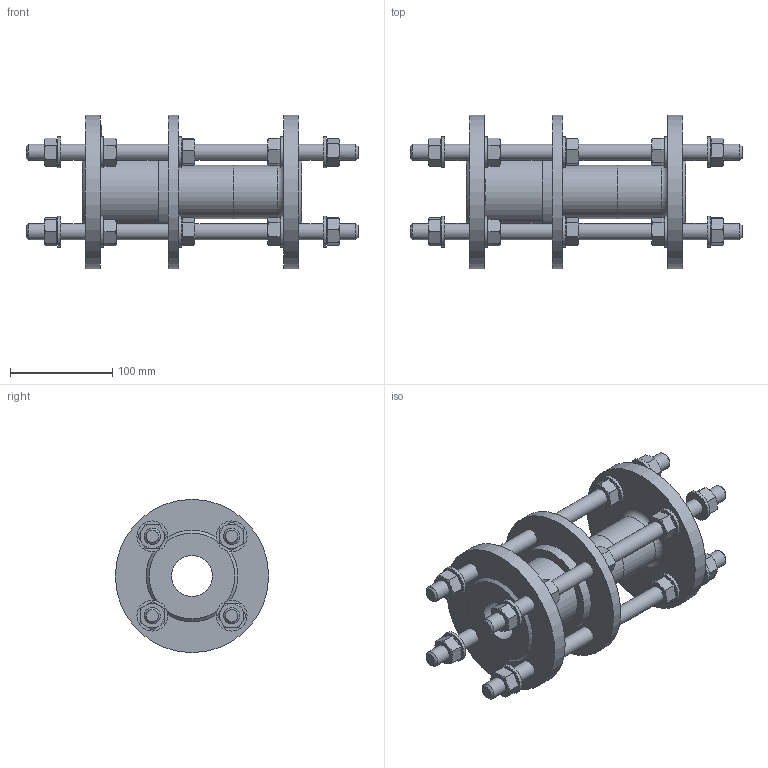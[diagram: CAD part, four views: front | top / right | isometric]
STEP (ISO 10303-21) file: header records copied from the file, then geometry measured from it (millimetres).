
FILE_DESCRIPTION (( 'STEP AP203' ), '1' );
FILE_NAME ('O_265_910_DN40_1XXXXX00_L=215_REV01.step', '2024-10-11T07:55:28', ( '' ), ( '' ), 'SwSTEP 2.0', 'SolidWorks 2022', '' );
FILE_SCHEMA (( 'CONFIG_CONTROL_DESIGN' ));
Length unit declared in the file: millimetre
Products named in the file (1): O_265_910_DN40_1XXXXX00_L=215_REV01
Bounding box: 325 x 150 x 150 mm (x, y, z)
Volume: 1283006.7 mm3; surface area: 243707.8 mm2
Topology: 1 solids, 1 shells, 549 faces, 1206 edges, 726 vertices
Faces by surface type: plane 344, cone 131, cylinder 73, torus 1
Full cylindrical faces by diameter (mm): 16 x24, 24 x20, 30 x20, 40 x1, 52 x2, 69 x1, 150 x3
Entity records: 15142 total; most frequent: CARTESIAN_POINT 3767, DIRECTION 2327, ORIENTED_EDGE 2174, EDGE_CURVE 1087, AXIS2_PLACEMENT_3D 930, EDGE_LOOP 717, VERTEX_POINT 690, FACE_OUTER_BOUND 621
